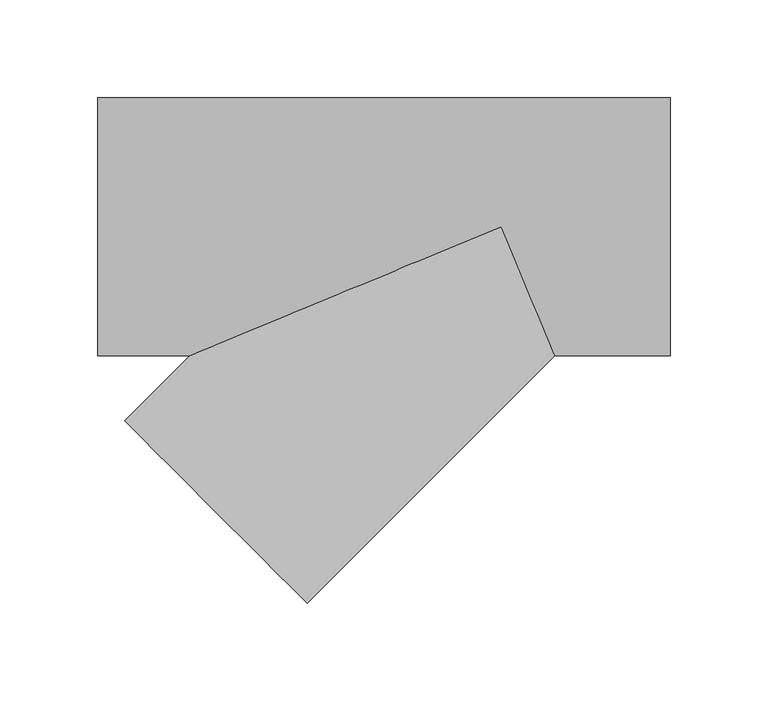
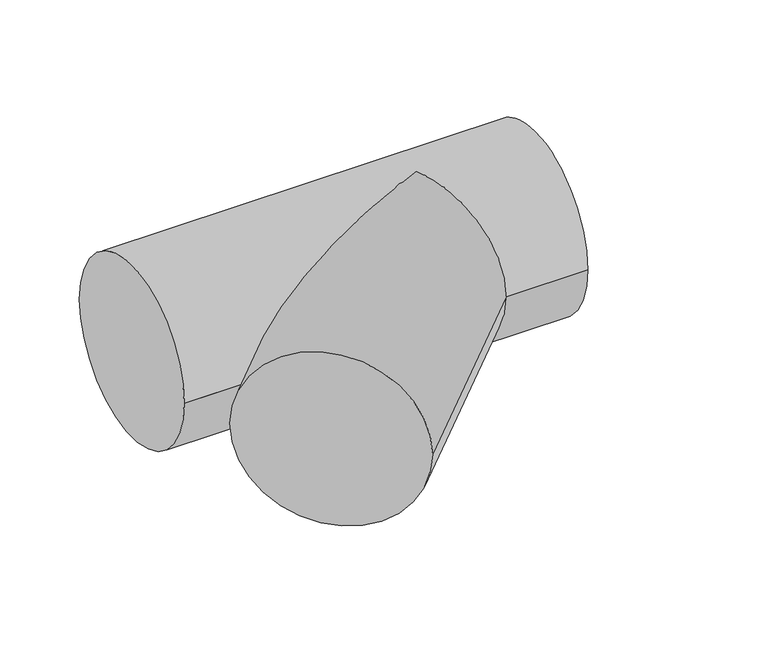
"""IFC4 building model written with IfcOpenShell, lengths in millimetres: pipe fitting geometry, 010513441 : Tê a 45º."""

from ifc_helpers import new_model, si_unit, frame, origin, place, context, project, spatial, circle_curve, ellipse_curve, source, transform, mapped, element, save
from ifc_brep_helpers import plane_surface, cylinder_surface, advanced_brep


def pipe_fitting_fedb4aa0(model_context):
    return source(origin(), model_context, "Body", "AdvancedBrep", [
        advanced_brep(
        [(-206.5, -66.0, 0.0), (-206.5, 66.0, 0.0), (86.5, -66.0, 0.0), (86.5, 66.0, 0.0), (-159.3380951, -66.0, 0.0), (0.0, 0.0, 66.0), (27.3380951, -66.0, 0.0), (0.0, 0.0, -66.0), (-192.6865979, -99.3485028, 0.0), (-99.3485028, -192.6865979, 0.0)],
        [
            (0, 1, circle_curve(frame((-206.5, 0.0, 0.0), z_axis=(-1.0, 0.0, 0.0), x_axis=(0.0, 1.0, 0.0)), 66.0)),
            (1, 0, circle_curve(frame((-206.5, 0.0, 0.0), z_axis=(-1.0, 0.0, 0.0), x_axis=(0.0, 1.0, 0.0)), 66.0)),
            (2, 3, circle_curve(frame((86.5, 0.0, 0.0), z_axis=(1.0, 0.0, 0.0), x_axis=(0.0, 1.0, 0.0)), 66.0)),
            (3, 2, circle_curve(frame((86.5, 0.0, 0.0), z_axis=(1.0, 0.0, 0.0), x_axis=(0.0, 1.0, 0.0)), 66.0)),
            (0, 4),
            (4, 5, ellipse_curve(frame((0.0, 0.0, 0.0), z_axis=(-0.38268343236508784, 0.9238795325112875, 0.0), x_axis=(-0.9238795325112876, -0.38268343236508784, 0.0)), 172.4663114, 66.0)),
            (5, 6, ellipse_curve(frame((0.0, 0.0, 0.0), z_axis=(0.9238795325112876, 0.38268343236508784, 0.0), x_axis=(-0.3826834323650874, 0.9238795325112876, 0.0)), 71.4378852, 66.0)),
            (6, 2),
            (3, 1),
            (6, 7, ellipse_curve(frame((0.0, 0.0, 0.0), z_axis=(0.9238795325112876, 0.38268343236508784, 0.0), x_axis=(-0.3826834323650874, 0.9238795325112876, 0.0)), 71.4378852, 66.0)),
            (7, 4, ellipse_curve(frame((0.0, 0.0, 0.0), z_axis=(-0.38268343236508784, 0.9238795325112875, 0.0), x_axis=(-0.9238795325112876, -0.38268343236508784, 0.0)), 172.4663114, 66.0)),
            (8, 9, circle_curve(frame((-146.0175503, -146.0175503, 0.0), z_axis=(-0.7071067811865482, -0.7071067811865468, 0.0), x_axis=(0.7071067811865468, -0.7071067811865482, 0.0)), 66.0)),
            (9, 8, circle_curve(frame((-146.0175503, -146.0175503, 0.0), z_axis=(-0.7071067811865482, -0.7071067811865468, 0.0), x_axis=(0.7071067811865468, -0.7071067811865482, 0.0)), 66.0)),
            (9, 6),
            (4, 8),
        ],
        [
            plane_surface(frame((-206.5, 0.0, 0.0), z_axis=(-1.0, 0.0, 0.0), x_axis=(0.0, 0.0, 1.0))),
            plane_surface(frame((86.5, 0.0, 0.0), z_axis=(1.0, 0.0, 0.0), x_axis=(0.0, 0.0, 1.0))),
            cylinder_surface(frame((-206.5, 0.0, 0.0), z_axis=(-1.0, 0.0, 0.0), x_axis=(0.0, 1.0, 0.0)), 66.0),
            plane_surface(frame((-146.0175503, -146.0175503, 0.0), z_axis=(-0.7071067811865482, -0.7071067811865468, 0.0), x_axis=(0.0, 0.0, 1.0))),
            cylinder_surface(frame((0.0, 0.0, 0.0), z_axis=(0.7071067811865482, 0.7071067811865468, 0.0), x_axis=(0.7071067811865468, -0.7071067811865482, 0.0)), 66.0),
        ],
        [
            (0, [[1, 2]]),
            (1, [[3, 4]]),
            (2, [[-1, 5, 6, 7, 8, -4, 9]]),
            (2, [[-2, -9, -3, -8, 10, 11, -5]]),
            (3, [[12, 13]]),
            (4, [[-13, 14, -7, -6, 15]]),
            (4, [[-12, -15, -11, -10, -14]]),
        ],
    ),
    ])


if __name__ == "__main__":
    model = new_model("IFC4")
    model_context = context("Model", 3, world=origin())
    ifc_project = project(units=[si_unit("LENGTHUNIT", "METRE", prefix="MILLI")], contexts=[model_context])
    site = spatial("IfcSite", under=ifc_project)
    building = spatial("IfcBuilding", under=site)
    placement = place(None, origin())
    pipe_fitting_shape = pipe_fitting_fedb4aa0(model_context)
    element("IfcPipeFitting", 1, ObjectType="010513441 : Tê a 45º", at=placement, inside=building, context=model_context, shape_type="MappedRepresentation", body=[
        mapped(pipe_fitting_shape, transform((0.0, 0.0, 0.0), x_axis=(1.0, 0.0, 0.0), y_axis=(0.0, 1.0, 0.0), z_axis=(0.0, 0.0, 1.0))),
    ])
    save(model, "model.ifc")
